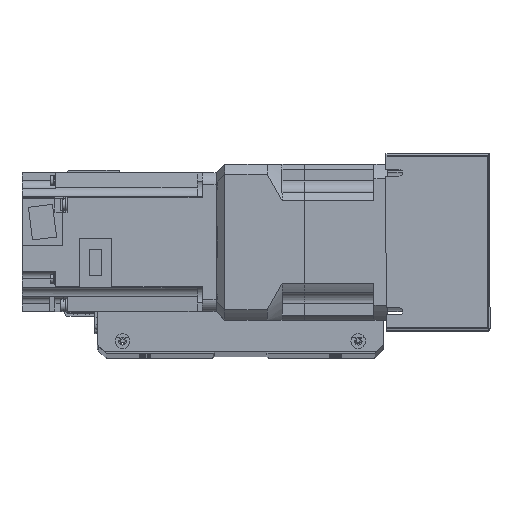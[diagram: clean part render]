
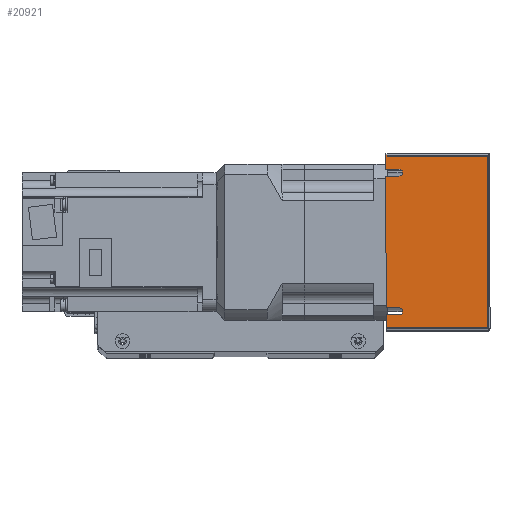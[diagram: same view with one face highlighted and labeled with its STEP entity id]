
A CAD part, top view. The second image highlights one B-rep face of the part: STEP entity #20921.
In plain terms, the highlighted planar face has unit normal (0, 0, 1) as drawn and (-1, 0, 0) by its records, which use the part's own axes.
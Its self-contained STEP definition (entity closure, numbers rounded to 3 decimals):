
#558=PLANE('',#22785);
#1646=LINE('',#33226,#3306);
#1652=LINE('',#33240,#3312);
#1664=LINE('',#33267,#3324);
#1674=LINE('',#33289,#3334);
#1682=LINE('',#33308,#3342);
#1683=LINE('',#33311,#3343);
#1684=LINE('',#33313,#3344);
#1685=LINE('',#33315,#3345);
#1686=LINE('',#33317,#3346);
#1687=LINE('',#33318,#3347);
#3306=VECTOR('',#27039,10.);
#3312=VECTOR('',#27049,10.);
#3324=VECTOR('',#27067,10.);
#3334=VECTOR('',#27081,10.);
#3342=VECTOR('',#27103,10.);
#3343=VECTOR('',#27106,10.);
#3344=VECTOR('',#27107,10.);
#3345=VECTOR('',#27108,10.);
#3346=VECTOR('',#27109,10.);
#3347=VECTOR('',#27110,10.);
#5376=FACE_OUTER_BOUND('',#6852,.T.);
#6852=EDGE_LOOP('',(#16284,#16285,#16286,#16287,#16288,#16289,#16290,#16291,
#16292,#16293,#16294,#16295));
#8302=CIRCLE('',#22781,2.);
#8305=CIRCLE('',#22786,2.);
#9751=VERTEX_POINT('',#33223);
#9752=VERTEX_POINT('',#33225);
#9757=VERTEX_POINT('',#33238);
#9758=VERTEX_POINT('',#33239);
#9769=VERTEX_POINT('',#33265);
#9770=VERTEX_POINT('',#33266);
#9779=VERTEX_POINT('',#33286);
#9780=VERTEX_POINT('',#33288);
#9785=VERTEX_POINT('',#33310);
#9786=VERTEX_POINT('',#33312);
#9787=VERTEX_POINT('',#33314);
#9788=VERTEX_POINT('',#33316);
#12115=EDGE_CURVE('',#9751,#9752,#1646,.T.);
#12121=EDGE_CURVE('',#9757,#9758,#1652,.T.);
#12133=EDGE_CURVE('',#9769,#9770,#1664,.T.);
#12143=EDGE_CURVE('',#9779,#9780,#1674,.T.);
#12146=EDGE_CURVE('',#9758,#9751,#8302,.T.);
#12155=EDGE_CURVE('',#9757,#9780,#1682,.T.);
#12156=EDGE_CURVE('',#9770,#9779,#8305,.T.);
#12157=EDGE_CURVE('',#9769,#9785,#1683,.T.);
#12158=EDGE_CURVE('',#9785,#9786,#1684,.T.);
#12159=EDGE_CURVE('',#9786,#9787,#1685,.T.);
#12160=EDGE_CURVE('',#9787,#9788,#1686,.T.);
#12161=EDGE_CURVE('',#9788,#9752,#1687,.T.);
#16284=ORIENTED_EDGE('',*,*,#12115,.F.);
#16285=ORIENTED_EDGE('',*,*,#12146,.F.);
#16286=ORIENTED_EDGE('',*,*,#12121,.F.);
#16287=ORIENTED_EDGE('',*,*,#12155,.T.);
#16288=ORIENTED_EDGE('',*,*,#12143,.F.);
#16289=ORIENTED_EDGE('',*,*,#12156,.F.);
#16290=ORIENTED_EDGE('',*,*,#12133,.F.);
#16291=ORIENTED_EDGE('',*,*,#12157,.T.);
#16292=ORIENTED_EDGE('',*,*,#12158,.T.);
#16293=ORIENTED_EDGE('',*,*,#12159,.T.);
#16294=ORIENTED_EDGE('',*,*,#12160,.T.);
#16295=ORIENTED_EDGE('',*,*,#12161,.T.);
#20921=ADVANCED_FACE('',(#5376),#558,.F.);
#22781=AXIS2_PLACEMENT_3D('',#33293,#27087,#27088);
#22785=AXIS2_PLACEMENT_3D('',#33307,#27101,#27102);
#22786=AXIS2_PLACEMENT_3D('',#33309,#27104,#27105);
#27039=DIRECTION('',(0.,0.,-1.));
#27049=DIRECTION('',(0.,0.,1.));
#27067=DIRECTION('',(0.,0.,1.));
#27081=DIRECTION('',(0.,0.,-1.));
#27087=DIRECTION('center_axis',(-1.,0.,0.));
#27088=DIRECTION('ref_axis',(0.,0.,1.));
#27101=DIRECTION('center_axis',(1.,0.,0.));
#27102=DIRECTION('ref_axis',(0.,-1.,0.));
#27103=DIRECTION('',(0.,-1.,0.));
#27104=DIRECTION('center_axis',(-1.,0.,0.));
#27105=DIRECTION('ref_axis',(0.,0.,1.));
#27106=DIRECTION('',(0.,-1.,0.));
#27107=DIRECTION('',(0.,0.,1.));
#27108=DIRECTION('',(0.,1.,0.));
#27109=DIRECTION('',(0.,0.,-1.));
#27110=DIRECTION('',(0.,-1.,0.));
#33223=CARTESIAN_POINT('',(-120.5,42.,-22.5));
#33225=CARTESIAN_POINT('',(-120.5,42.,-30.));
#33226=CARTESIAN_POINT('',(-120.5,42.,-16.304));
#33238=CARTESIAN_POINT('',(-120.5,38.,-30.));
#33239=CARTESIAN_POINT('',(-120.5,38.,-22.5));
#33240=CARTESIAN_POINT('',(-120.5,38.,-11.25));
#33265=CARTESIAN_POINT('',(-120.5,-42.,-30.));
#33266=CARTESIAN_POINT('',(-120.5,-42.,-22.5));
#33267=CARTESIAN_POINT('',(-120.5,-42.,-11.25));
#33286=CARTESIAN_POINT('',(-120.5,-38.,-22.5));
#33288=CARTESIAN_POINT('',(-120.5,-38.,-30.));
#33289=CARTESIAN_POINT('',(-120.5,-38.,-16.169));
#33293=CARTESIAN_POINT('Origin',(-120.5,40.,-22.5));
#33307=CARTESIAN_POINT('Origin',(-120.5,51.,0.));
#33308=CARTESIAN_POINT('',(-120.5,-51.,-30.));
#33309=CARTESIAN_POINT('Origin',(-120.5,-40.,-22.5));
#33310=CARTESIAN_POINT('',(-120.5,-50.,-30.));
#33311=CARTESIAN_POINT('',(-120.5,-51.,-30.));
#33312=CARTESIAN_POINT('',(-120.5,-50.,29.));
#33313=CARTESIAN_POINT('',(-120.5,-50.,0.));
#33314=CARTESIAN_POINT('',(-120.5,50.,29.));
#33315=CARTESIAN_POINT('',(-120.5,25.5,29.));
#33316=CARTESIAN_POINT('',(-120.5,50.,-30.));
#33317=CARTESIAN_POINT('',(-120.5,50.,0.));
#33318=CARTESIAN_POINT('',(-120.5,-51.,-30.));
